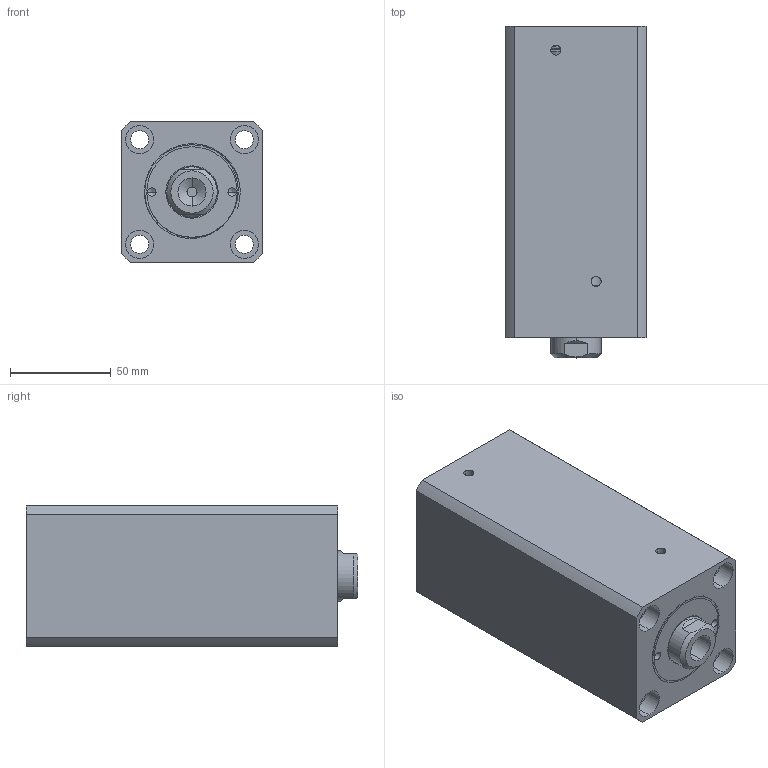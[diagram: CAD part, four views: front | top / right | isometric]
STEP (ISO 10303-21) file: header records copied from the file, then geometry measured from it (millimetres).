
FILE_DESCRIPTION (( 'STEP AP214' ), '1' );
FILE_NAME ('chtb-sdmb40x100n_asm.STEP', '2018-06-07T02:46:27', ( 'Windows' ), ( 'Microsoft' ), 'SwSTEP 2.0', 'SolidWorks 2015', '' );
FILE_SCHEMA (( 'AUTOMOTIVE_DESIGN' ));
Length unit declared in the file: millimetre
Products named in the file (4): CHTB-SD40QG; CHTB-SDMB40X100NBT; CHTB-SD40X100NHSG; chtb-sdmb40x100n_asm
Assembly tree (3 placements, depth 2):
  chtb-sdmb40x100n_asm
    CHTB-SD40X100NHSG
    CHTB-SDMB40X100NBT
    CHTB-SD40QG
Bounding box: 70 x 165 x 70 mm (x, y, z)
Volume: 621807.6 mm3; surface area: 120470.2 mm2
Topology: 3 solids, 3 shells, 155 faces, 407 edges, 270 vertices
Faces by surface type: cylinder 84, plane 34, torus 14, bspline 14, cone 9
Entity records: 10007 total; most frequent: CARTESIAN_POINT 6085, ORIENTED_EDGE 802, DIRECTION 758, EDGE_CURVE 401, AXIS2_PLACEMENT_3D 322, VERTEX_POINT 270, EDGE_LOOP 191, CIRCLE 175
